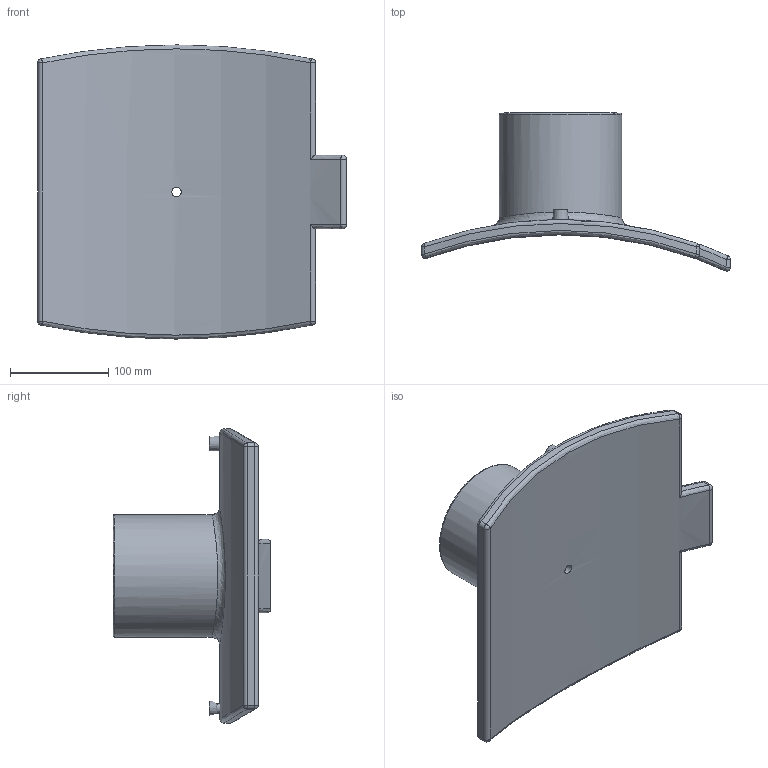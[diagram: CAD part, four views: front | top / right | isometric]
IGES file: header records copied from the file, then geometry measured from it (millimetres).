
Global section: file name: 495804710125T.ipt; native system: Autodesk Inventor 2015; preprocessor: unknown; author: KIM; date: 20171106.094345; units: millimetre
Bounding box: 315 x 161.15 x 300 mm (x, y, z)
Volume: 1792472 mm3; surface area: 272144.5 mm2
Topology: 2 solids, 2 shells, 66 faces, 132 edges, 78 vertices
Faces by surface type: cylinder 22, plane 14, sphere 12, revolution 11, bspline 5, cone 2
Full cylindrical faces by diameter (mm): 4 x2, 16 x1, 125 x1
